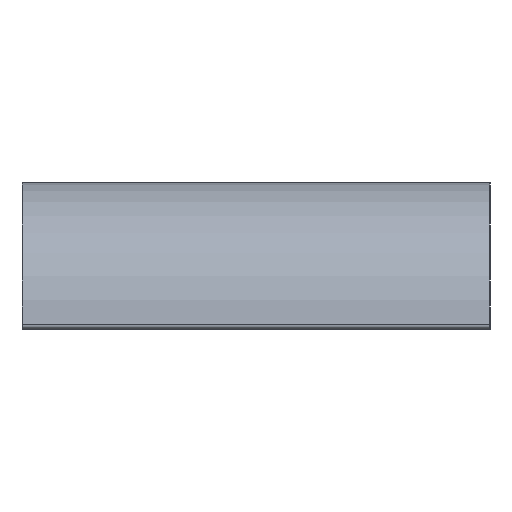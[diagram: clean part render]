
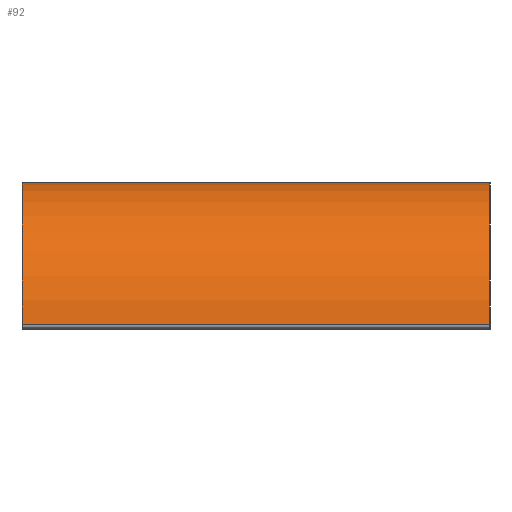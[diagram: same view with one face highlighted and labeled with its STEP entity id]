
A CAD part, left-side view. The second image highlights one B-rep face of the part: STEP entity #92.
In plain terms, the highlighted cylindrical face has radius 10 mm (diameter 20 mm), a partial arc.
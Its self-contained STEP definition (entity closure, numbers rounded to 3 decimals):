
#92 = ADVANCED_FACE( '', ( #132 ), #133, .T. );
#132 = FACE_OUTER_BOUND( '', #178, .T. );
#133 = CYLINDRICAL_SURFACE( '', #179, 10. );
#178 = EDGE_LOOP( '', ( #323, #324, #325, #326, #327 ) );
#179 = AXIS2_PLACEMENT_3D( '', #328, #329, #330 );
#323 = ORIENTED_EDGE( '', *, *, #417, .T. );
#324 = ORIENTED_EDGE( '', *, *, #387, .F. );
#325 = ORIENTED_EDGE( '', *, *, #413, .T. );
#326 = ORIENTED_EDGE( '', *, *, #418, .F. );
#327 = ORIENTED_EDGE( '', *, *, #415, .T. );
#328 = CARTESIAN_POINT( '', ( 0., 0., -5. ) );
#329 = DIRECTION( '', ( 0., 1., 0. ) );
#330 = DIRECTION( '', ( -1., 0., 0.031 ) );
#387 = EDGE_CURVE( '', #462, #453, #464, .T. );
#413 = EDGE_CURVE( '', #462, #501, #503, .T. );
#415 = EDGE_CURVE( '', #505, #506, #507, .T. );
#417 = EDGE_CURVE( '', #506, #453, #509, .T. );
#418 = EDGE_CURVE( '', #505, #501, #510, .T. );
#453 = VERTEX_POINT( '', #549 );
#462 = VERTEX_POINT( '', #559 );
#464 = CIRCLE( '', #562, 10. );
#501 = VERTEX_POINT( '', #611 );
#503 = LINE( '', #614, #615 );
#505 = VERTEX_POINT( '', #618 );
#506 = VERTEX_POINT( '', #619 );
#507 = LINE( '', #620, #621 );
#509 = LINE( '', #623, #624 );
#510 = CIRCLE( '', #625, 10. );
#549 = CARTESIAN_POINT( '', ( -9.995, -32., -4.691 ) );
#559 = CARTESIAN_POINT( '', ( 0., -32., 5. ) );
#562 = AXIS2_PLACEMENT_3D( '', #679, #680, #681 );
#611 = CARTESIAN_POINT( '', ( 0., 0., 5. ) );
#614 = CARTESIAN_POINT( '', ( 0., -16., 5. ) );
#615 = VECTOR( '', #731, 1. );
#618 = CARTESIAN_POINT( '', ( -9.995, 0., -4.691 ) );
#619 = CARTESIAN_POINT( '', ( -9.995, -23.804, -4.691 ) );
#620 = CARTESIAN_POINT( '', ( -9.995, 0., -4.691 ) );
#621 = VECTOR( '', #733, 1. );
#623 = CARTESIAN_POINT( '', ( -9.995, 0., -4.691 ) );
#624 = VECTOR( '', #737, 1. );
#625 = AXIS2_PLACEMENT_3D( '', #738, #739, #740 );
#679 = CARTESIAN_POINT( '', ( 0., -32., -5. ) );
#680 = DIRECTION( '', ( 0., -1., 0. ) );
#681 = DIRECTION( '', ( 0., 0., 1. ) );
#731 = DIRECTION( '', ( 0., 1., 0. ) );
#733 = DIRECTION( '', ( 0., -1., 0. ) );
#737 = DIRECTION( '', ( 0., -1., 0. ) );
#738 = CARTESIAN_POINT( '', ( 0., 0., -5. ) );
#739 = DIRECTION( '', ( 0., 1., 0. ) );
#740 = DIRECTION( '', ( -1., 0., 0.031 ) );
